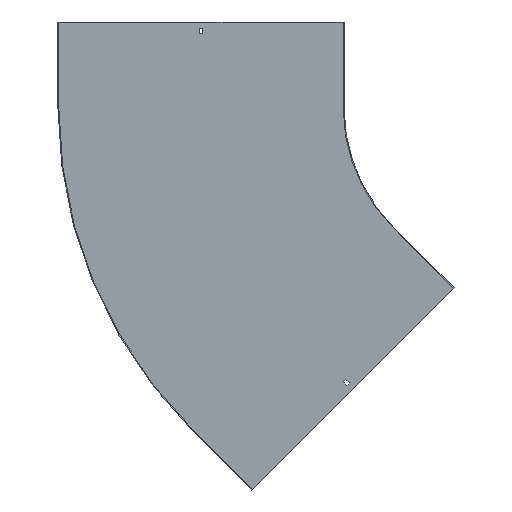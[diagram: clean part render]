
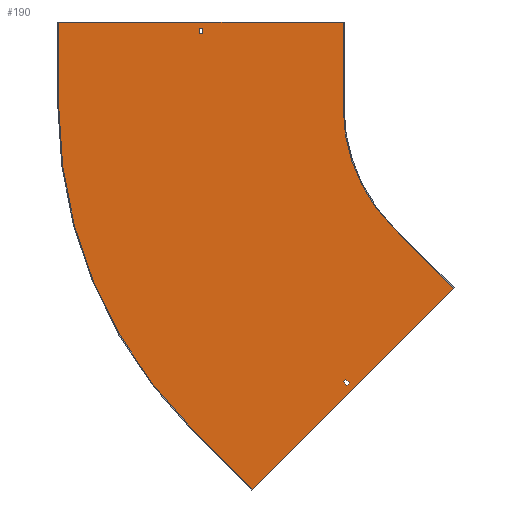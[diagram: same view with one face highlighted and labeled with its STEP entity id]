
A CAD part, front view. The second image highlights one B-rep face of the part: STEP entity #190.
In plain terms, the highlighted planar face has unit normal (0, -1, 0).
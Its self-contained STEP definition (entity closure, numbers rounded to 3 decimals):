
#2 = ORIENTED_EDGE ( 'NONE', *, *, #212, .F. ) ;
#16 = CARTESIAN_POINT ( 'NONE',  ( 0., -1.5, 138. ) ) ;
#22 = CARTESIAN_POINT ( 'NONE',  ( -800., -1.5, 150. ) ) ;
#25 = VERTEX_POINT ( 'NONE', #104 ) ;
#34 = EDGE_CURVE ( 'NONE', #313, #504, #182, .T. ) ;
#35 = VERTEX_POINT ( 'NONE', #36 ) ;
#36 = CARTESIAN_POINT ( 'NONE',  ( -459.619, -1.5, -671.751 ) ) ;
#38 = CARTESIAN_POINT ( 'NONE',  ( -546.75, -1.5, 138. ) ) ;
#45 = CARTESIAN_POINT ( 'NONE',  ( -300., -1.5, 0. ) ) ;
#47 = EDGE_CURVE ( 'NONE', #504, #25, #761, .T. ) ;
#61 = VERTEX_POINT ( 'NONE', #795 ) ;
#66 = LINE ( 'NONE', #411, #156 ) ;
#74 = EDGE_CURVE ( 'NONE', #841, #353, #325, .T. ) ;
#78 = DIRECTION ( 'NONE',  ( 0.707, 0., 0.707 ) ) ;
#88 = VECTOR ( 'NONE', #786, 1000. ) ;
#94 = CARTESIAN_POINT ( 'NONE',  ( -295.394, -1.5, -477.827 ) ) ;
#97 = PLANE ( 'NONE',  #403 ) ;
#100 = DIRECTION ( 'NONE',  ( 0., 0., -1. ) ) ;
#104 = CARTESIAN_POINT ( 'NONE',  ( -293.626, -1.5, -488.788 ) ) ;
#128 = ORIENTED_EDGE ( 'NONE', *, *, #445, .F. ) ;
#135 = ORIENTED_EDGE ( 'NONE', *, *, #34, .F. ) ;
#142 = VERTEX_POINT ( 'NONE', #45 ) ;
#156 = VECTOR ( 'NONE', #78, 1000. ) ;
#157 = EDGE_CURVE ( 'NONE', #759, #816, #582, .T. ) ;
#158 = LINE ( 'NONE', #497, #566 ) ;
#162 = FACE_OUTER_BOUND ( 'NONE', #194, .T. ) ;
#165 = VECTOR ( 'NONE', #598, 1000. ) ;
#170 = CARTESIAN_POINT ( 'NONE',  ( -391.207, -1.5, -391.207 ) ) ;
#182 = LINE ( 'NONE', #505, #243 ) ;
#190 = ADVANCED_FACE ( 'NONE', ( #503, #162, #829 ), #97, .T. ) ;
#194 = EDGE_LOOP ( 'NONE', ( #440, #736, #642, #226, #576, #2, #534, #539 ) ) ;
#200 = VECTOR ( 'NONE', #382, 1000. ) ;
#212 = EDGE_CURVE ( 'NONE', #727, #767, #230, .T. ) ;
#213 = LINE ( 'NONE', #223, #375 ) ;
#214 = EDGE_CURVE ( 'NONE', #61, #841, #287, .T. ) ;
#218 = VECTOR ( 'NONE', #244, 1000. ) ;
#223 = CARTESIAN_POINT ( 'NONE',  ( -300., -1.5, 150. ) ) ;
#224 = VERTEX_POINT ( 'NONE', #677 ) ;
#226 = ORIENTED_EDGE ( 'NONE', *, *, #422, .F. ) ;
#227 = VECTOR ( 'NONE', #601, 1000. ) ;
#230 = LINE ( 'NONE', #344, #270 ) ;
#233 = CARTESIAN_POINT ( 'NONE',  ( -300., -1.5, 150. ) ) ;
#235 = CARTESIAN_POINT ( 'NONE',  ( 0., -1.5, 0. ) ) ;
#237 = EDGE_CURVE ( 'NONE', #816, #391, #541, .T. ) ;
#239 = CARTESIAN_POINT ( 'NONE',  ( -299.99, -1.5, -482.424 ) ) ;
#241 = DIRECTION ( 'NONE',  ( 0., -1., 0. ) ) ;
#243 = VECTOR ( 'NONE', #446, 1000. ) ;
#244 = DIRECTION ( 'NONE',  ( -0.707, 0., 0.707 ) ) ;
#254 = DIRECTION ( 'NONE',  ( 0., 0., 1. ) ) ;
#255 = ORIENTED_EDGE ( 'NONE', *, *, #74, .T. ) ;
#270 = VECTOR ( 'NONE', #551, 1000. ) ;
#287 = LINE ( 'NONE', #340, #682 ) ;
#292 = LINE ( 'NONE', #832, #218 ) ;
#297 = DIRECTION ( 'NONE',  ( 0., 1., 0. ) ) ;
#301 = ORIENTED_EDGE ( 'NONE', *, *, #214, .T. ) ;
#313 = VERTEX_POINT ( 'NONE', #94 ) ;
#322 = EDGE_LOOP ( 'NONE', ( #408, #128, #579, #135 ) ) ;
#325 = LINE ( 'NONE', #799, #88 ) ;
#331 = CARTESIAN_POINT ( 'NONE',  ( -800., -1.5, 0. ) ) ;
#340 = CARTESIAN_POINT ( 'NONE',  ( 0., -1.5, 129. ) ) ;
#344 = CARTESIAN_POINT ( 'NONE',  ( -212.132, -1.5, -212.132 ) ) ;
#349 = VECTOR ( 'NONE', #254, 1000. ) ;
#353 = VERTEX_POINT ( 'NONE', #356 ) ;
#356 = CARTESIAN_POINT ( 'NONE',  ( -553.25, -1.5, 138. ) ) ;
#359 = VECTOR ( 'NONE', #435, 1000. ) ;
#366 = DIRECTION ( 'NONE',  ( 0., -1., 0. ) ) ;
#375 = VECTOR ( 'NONE', #817, 1000. ) ;
#376 = CIRCLE ( 'NONE', #390, 800. ) ;
#382 = DIRECTION ( 'NONE',  ( 1., 0., 0. ) ) ;
#390 = AXIS2_PLACEMENT_3D ( 'NONE', #397, #297, #691 ) ;
#391 = VERTEX_POINT ( 'NONE', #233 ) ;
#397 = CARTESIAN_POINT ( 'NONE',  ( 0., -1.5, 0. ) ) ;
#403 = AXIS2_PLACEMENT_3D ( 'NONE', #235, #366, #498 ) ;
#405 = CARTESIAN_POINT ( 'NONE',  ( -212.132, -1.5, -212.132 ) ) ;
#408 = ORIENTED_EDGE ( 'NONE', *, *, #507, .F. ) ;
#411 = CARTESIAN_POINT ( 'NONE',  ( 97.581, -1.5, -97.581 ) ) ;
#422 = EDGE_CURVE ( 'NONE', #35, #224, #158, .T. ) ;
#435 = DIRECTION ( 'NONE',  ( 0.707, 0., -0.707 ) ) ;
#440 = ORIENTED_EDGE ( 'NONE', *, *, #237, .F. ) ;
#445 = EDGE_CURVE ( 'NONE', #25, #474, #66, .T. ) ;
#446 = DIRECTION ( 'NONE',  ( -0.707, 0., -0.707 ) ) ;
#459 = CARTESIAN_POINT ( 'NONE',  ( -106.066, -1.5, -318.198 ) ) ;
#474 = VERTEX_POINT ( 'NONE', #794 ) ;
#497 = CARTESIAN_POINT ( 'NONE',  ( -459.619, -1.5, -671.751 ) ) ;
#498 = DIRECTION ( 'NONE',  ( 0., 0., -1. ) ) ;
#500 = EDGE_CURVE ( 'NONE', #224, #759, #376, .T. ) ;
#503 = FACE_BOUND ( 'NONE', #322, .T. ) ;
#504 = VERTEX_POINT ( 'NONE', #239 ) ;
#505 = CARTESIAN_POINT ( 'NONE',  ( 91.217, -1.5, -91.217 ) ) ;
#507 = EDGE_CURVE ( 'NONE', #474, #313, #292, .T. ) ;
#525 = ORIENTED_EDGE ( 'NONE', *, *, #685, .T. ) ;
#527 = CARTESIAN_POINT ( 'NONE',  ( -546.75, -1.5, 0. ) ) ;
#534 = ORIENTED_EDGE ( 'NONE', *, *, #624, .F. ) ;
#539 = ORIENTED_EDGE ( 'NONE', *, *, #812, .F. ) ;
#541 = LINE ( 'NONE', #662, #200 ) ;
#551 = DIRECTION ( 'NONE',  ( 0.707, 0., -0.707 ) ) ;
#566 = VECTOR ( 'NONE', #692, 1000. ) ;
#576 = ORIENTED_EDGE ( 'NONE', *, *, #773, .F. ) ;
#579 = ORIENTED_EDGE ( 'NONE', *, *, #47, .F. ) ;
#582 = LINE ( 'NONE', #849, #349 ) ;
#597 = EDGE_LOOP ( 'NONE', ( #636, #525, #301, #255 ) ) ;
#598 = DIRECTION ( 'NONE',  ( -0.707, 0., -0.707 ) ) ;
#600 = AXIS2_PLACEMENT_3D ( 'NONE', #856, #241, #100 ) ;
#601 = DIRECTION ( 'NONE',  ( 1., 0., 0. ) ) ;
#624 = EDGE_CURVE ( 'NONE', #142, #727, #689, .T. ) ;
#636 = ORIENTED_EDGE ( 'NONE', *, *, #746, .T. ) ;
#642 = ORIENTED_EDGE ( 'NONE', *, *, #500, .F. ) ;
#662 = CARTESIAN_POINT ( 'NONE',  ( -801.5, -1.5, 150. ) ) ;
#677 = CARTESIAN_POINT ( 'NONE',  ( -565.685, -1.5, -565.685 ) ) ;
#682 = VECTOR ( 'NONE', #809, 1000. ) ;
#685 = EDGE_CURVE ( 'NONE', #720, #61, #848, .T. ) ;
#689 = CIRCLE ( 'NONE', #600, 300. ) ;
#691 = DIRECTION ( 'NONE',  ( 0., 0., -1. ) ) ;
#692 = DIRECTION ( 'NONE',  ( -0.707, 0., 0.707 ) ) ;
#694 = VECTOR ( 'NONE', #784, 1000. ) ;
#720 = VERTEX_POINT ( 'NONE', #38 ) ;
#727 = VERTEX_POINT ( 'NONE', #405 ) ;
#728 = LINE ( 'NONE', #863, #165 ) ;
#736 = ORIENTED_EDGE ( 'NONE', *, *, #157, .F. ) ;
#742 = CARTESIAN_POINT ( 'NONE',  ( -553.25, -1.5, 129. ) ) ;
#746 = EDGE_CURVE ( 'NONE', #353, #720, #861, .T. ) ;
#759 = VERTEX_POINT ( 'NONE', #331 ) ;
#761 = LINE ( 'NONE', #170, #359 ) ;
#767 = VERTEX_POINT ( 'NONE', #459 ) ;
#773 = EDGE_CURVE ( 'NONE', #767, #35, #728, .T. ) ;
#784 = DIRECTION ( 'NONE',  ( 0., 0., -1. ) ) ;
#786 = DIRECTION ( 'NONE',  ( 0., 0., 1. ) ) ;
#794 = CARTESIAN_POINT ( 'NONE',  ( -289.03, -1.5, -484.191 ) ) ;
#795 = CARTESIAN_POINT ( 'NONE',  ( -546.75, -1.5, 129. ) ) ;
#799 = CARTESIAN_POINT ( 'NONE',  ( -553.25, -1.5, 0. ) ) ;
#809 = DIRECTION ( 'NONE',  ( -1., 0., 0. ) ) ;
#812 = EDGE_CURVE ( 'NONE', #391, #142, #213, .T. ) ;
#816 = VERTEX_POINT ( 'NONE', #22 ) ;
#817 = DIRECTION ( 'NONE',  ( 0., 0., -1. ) ) ;
#829 = FACE_BOUND ( 'NONE', #597, .T. ) ;
#832 = CARTESIAN_POINT ( 'NONE',  ( -386.611, -1.5, -386.611 ) ) ;
#841 = VERTEX_POINT ( 'NONE', #742 ) ;
#848 = LINE ( 'NONE', #527, #694 ) ;
#849 = CARTESIAN_POINT ( 'NONE',  ( -800., -1.5, 0. ) ) ;
#856 = CARTESIAN_POINT ( 'NONE',  ( 0., -1.5, 0. ) ) ;
#861 = LINE ( 'NONE', #16, #227 ) ;
#863 = CARTESIAN_POINT ( 'NONE',  ( -105.005, -1.5, -317.137 ) ) ;
